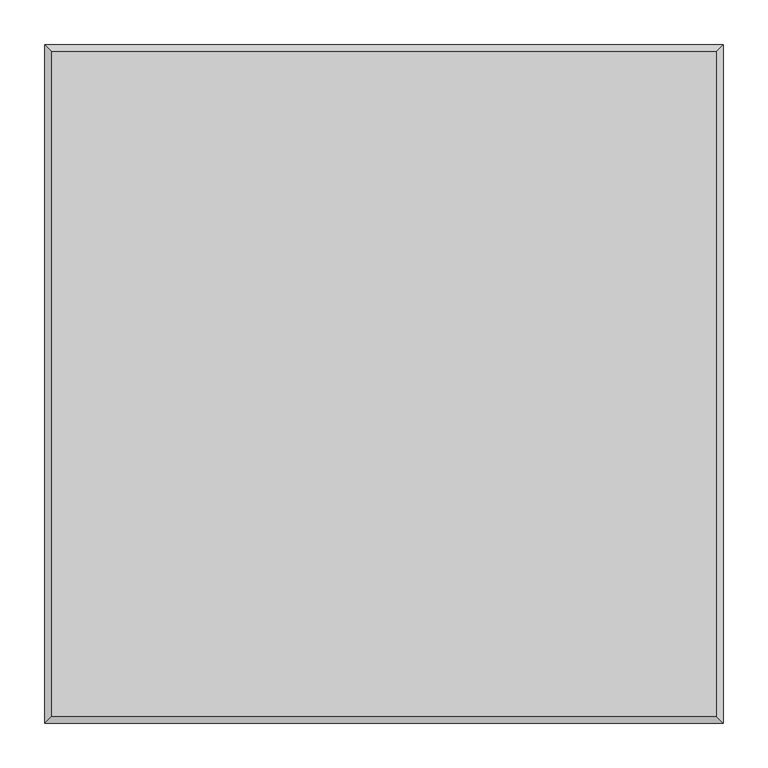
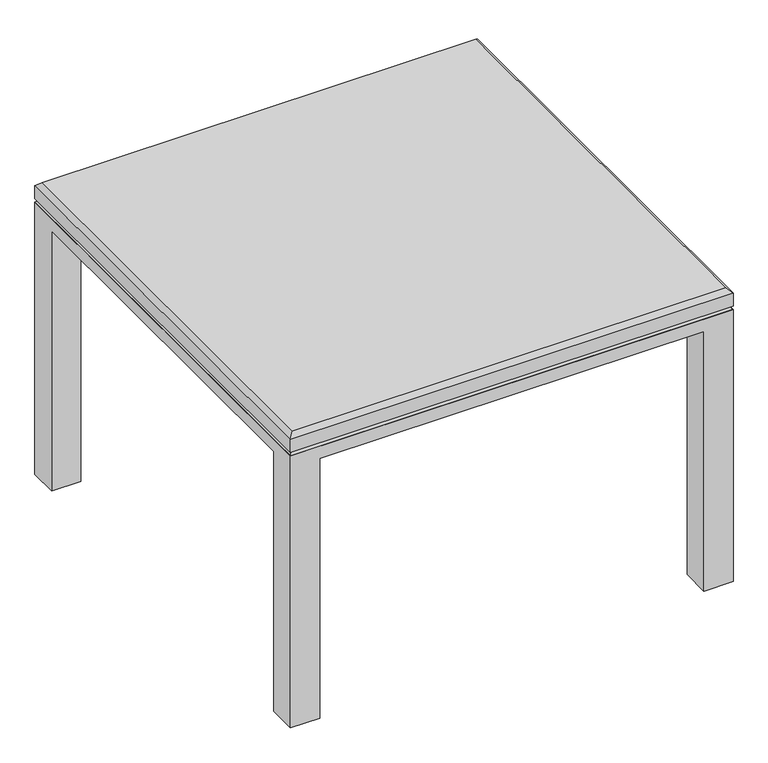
"""IFC4 building model written with IfcOpenShell, lengths in millimetres: furniture geometry, Steelcase Coalesse - Swathmore Plus - Beveled : 30D x 30W x 21H - Wood Top."""

import ifcopenshell
import ifcopenshell.guid

model = None  # the IFC model being written
_history = None  # IfcOwnerHistory: only IFC2X3 demands one
_inside = {}  # id of a spatial element -> (the spatial element, [elements in it])
_under = {}  # id of a project, library or spatial element -> (it, [spatial elements below it])
_declared = {}  # id of a project -> (the project, [libraries it declares])
_typed = {}  # id of a type object -> (the type object, [elements of that type])
_made_of = {}  # id of a material, layer set ... -> (it, [elements and type objects made of it])


def new_model(schema):
    """Start an empty IFC model of exactly this schema.

    Asked for "IFC4X3", IfcOpenShell would pick the latest addendum, in which some entities
    have other attributes; the version numbers below select the first issue.
    IFC2X3 requires an IfcOwnerHistory on every rooted entity: one is made here for all.
    """
    global model, _history
    if schema == "IFC4X3":
        model = ifcopenshell.file(schema_version=(4, 3, 0, 0))
    else:
        model = ifcopenshell.file(schema=schema)
    _inside.clear()
    _under.clear()
    _declared.clear()
    _typed.clear()
    _made_of.clear()
    _history = None
    if model.schema == "IFC2X3":
        org = make("IfcOrganization", Name="unknown")
        user = make(
            "IfcPersonAndOrganization",
            ThePerson=make("IfcPerson", FamilyName="unknown"),
            TheOrganization=org,
        )
        app = make(
            "IfcApplication",
            ApplicationDeveloper=org,
            Version="unknown",
            ApplicationFullName="unknown",
            ApplicationIdentifier="unknown",
        )
        _history = make(
            "IfcOwnerHistory",
            OwningUser=user,
            OwningApplication=app,
            ChangeAction="ADDED",
            CreationDate=0,
        )
    return model


def make(cls, **values):
    """One entity of the class cls with the attributes given. An attribute that is None is left unset."""
    return model.create_entity(
        cls, **{name: value for name, value in values.items() if value is not None}
    )


def rooted(cls, **values):
    """An entity with a GlobalId (a new one), such as an element, a storey or a relation."""
    return make(cls, GlobalId=ifcopenshell.guid.new(), OwnerHistory=_history, **values)


def si_unit(unit_type, name, prefix=None):
    """IfcSIUnit, for example si_unit("LENGTHUNIT", "METRE", prefix="MILLI")."""
    return make("IfcSIUnit", UnitType=unit_type, Prefix=prefix, Name=name)


def assignment(units):
    """IfcUnitAssignment: the units of a project."""
    return None if units is None else make("IfcUnitAssignment", Units=units)


def point(xyz):
    """IfcCartesianPoint."""
    return None if xyz is None else make("IfcCartesianPoint", Coordinates=xyz)


def direction(xyz):
    """IfcDirection."""
    return None if xyz is None else make("IfcDirection", DirectionRatios=xyz)


def frame(location, z_axis=None, x_axis=None):
    """IfcAxis2Placement3D, a coordinate frame: its origin and axes. An axis left out is left unset."""
    return make(
        "IfcAxis2Placement3D",
        Location=point(location),
        Axis=direction(z_axis),
        RefDirection=direction(x_axis),
    )


def origin():
    """The frame at (0, 0, 0) with its axes left unset."""
    return frame((0.0, 0.0, 0.0))


def place(relative_to, where):
    """IfcLocalPlacement: puts the frame where relative to a parent placement (None: the world)."""
    return make(
        "IfcLocalPlacement", PlacementRelTo=relative_to, RelativePlacement=where
    )


def context(
    kind, dimensions, precision=None, world=None, true_north=None, identifier=None
):
    """IfcGeometricRepresentationContext, for example the 3D "Model" context."""
    return make(
        "IfcGeometricRepresentationContext",
        ContextIdentifier=identifier,
        ContextType=kind,
        CoordinateSpaceDimension=dimensions,
        Precision=precision,
        WorldCoordinateSystem=world,
        TrueNorth=true_north,
    )


def project(units=None, contexts=None):
    """IfcProject with its units and contexts."""
    return rooted(
        "IfcProject",
        Name="project",
        RepresentationContexts=contexts,
        UnitsInContext=assignment(units),
    )


def spatial(cls, under=None, at=None, **own):
    """A site, building, storey or space (cls), placed at a placement, below another one or the project."""
    s = rooted(cls, ObjectPlacement=at, **own)
    if under is not None:
        _under.setdefault(under.id(), (under, []))[1].append(s)
    return s


def faces_of(points, faces, orient=None, outer=None):
    """IfcFace entities. A face is a list of loops; a loop is a list of indices into points, from 0.

    orient and outer hold one flag for each loop. By default every Orientation is true, the
    first loop of a face is its IfcFaceOuterBound and the others are IfcFaceBound.
    """
    made = []
    for i, loops in enumerate(faces):
        bounds = []
        for j, loop in enumerate(loops):
            is_outer = j == 0 if outer is None else outer[i][j]
            bounds.append(
                make(
                    "IfcFaceOuterBound" if is_outer else "IfcFaceBound",
                    Bound=make("IfcPolyLoop", Polygon=[points[k] for k in loop]),
                    Orientation=True if orient is None else orient[i][j],
                )
            )
        made.append(make("IfcFace", Bounds=bounds))
    return made


def faceted_brep(points, faces, orient=None, outer=None, voids=None):
    """IfcFacetedBrep: a solid bounded by flat faces; with voids (closed shells), ...WithVoids."""
    shared = [point(p) for p in points]
    hull = make("IfcClosedShell", CfsFaces=faces_of(shared, faces, orient, outer))
    if voids is None:
        return make("IfcFacetedBrep", Outer=hull)
    return make(
        "IfcFacetedBrepWithVoids",
        Outer=hull,
        Voids=[
            make(cls, CfsFaces=faces_of(shared, fs, o, b)) for cls, fs, o, b in voids
        ],
    )


def shape(context_of_items, identifier, shape_type, items):
    """IfcShapeRepresentation: the items that make up one representation, for example the "Body"."""
    return make(
        "IfcShapeRepresentation",
        ContextOfItems=context_of_items,
        RepresentationIdentifier=identifier,
        RepresentationType=shape_type,
        Items=items,
    )


def source(mapping_origin, context_of_items, identifier, shape_type, items):
    """IfcRepresentationMap: a shape defined once, which mapped items show again and again."""
    return make(
        "IfcRepresentationMap",
        MappingOrigin=mapping_origin,
        MappedRepresentation=shape(context_of_items, identifier, shape_type, items),
    )


def transform(
    local_origin,
    x_axis=None,
    y_axis=None,
    z_axis=None,
    scale=None,
    scale2=None,
    scale3=None,
    uniform=True,
):
    """IfcCartesianTransformationOperator3D, or its non-uniform kind. x_axis, y_axis, z_axis: its Axis1, 2, 3."""
    if uniform:
        return make(
            "IfcCartesianTransformationOperator3D",
            Axis1=direction(x_axis),
            Axis2=direction(y_axis),
            LocalOrigin=point(local_origin),
            Scale=scale,
            Axis3=direction(z_axis),
        )
    return make(
        "IfcCartesianTransformationOperator3DnonUniform",
        Axis1=direction(x_axis),
        Axis2=direction(y_axis),
        LocalOrigin=point(local_origin),
        Scale=scale,
        Axis3=direction(z_axis),
        Scale2=scale2,
        Scale3=scale3,
    )


def mapped(mapping_source, mapping_target):
    """IfcMappedItem: shows the shape of a source again, moved by a transform."""
    return make(
        "IfcMappedItem", MappingSource=mapping_source, MappingTarget=mapping_target
    )


def made_of(thing, what):
    """Note that an element or type object is made of a material, layer set ...; save() writes the relation."""
    if what is not None:
        _made_of.setdefault(what.id(), (what, []))[1].append(thing)
    return thing


def element(
    cls,
    number,
    at=None,
    inside=None,
    cuts=None,
    type_object=None,
    material=None,
    context=None,
    identifier="Body",
    shape_type=None,
    held_by="IfcProductDefinitionShape",
    body=None,
    shapes=None,
    **own,
):
    """One element of the class cls, such as IfcWall. Its Tag is "e" and its number.

    at: its placement. inside: the storey or other place that contains it. cuts: it is an
    opening in that element (IfcRelVoidsElement). A single representation is given by context,
    identifier, shape_type and body (its items); several are given by shapes. held_by: the class
    of the entity that holds the representations. save() writes the other relations.
    """
    e = rooted(cls, Tag="e%d" % number, ObjectPlacement=at, **own)
    if body is not None:
        shapes = [shape(context, identifier, shape_type, body)]
    if shapes is not None:
        e.Representation = make(held_by, Representations=shapes)
    if inside is not None:
        _inside.setdefault(inside.id(), (inside, []))[1].append(e)
    if cuts is not None:
        rooted(
            "IfcRelVoidsElement", RelatingBuildingElement=cuts, RelatedOpeningElement=e
        )
    if type_object is not None:
        _typed.setdefault(type_object.id(), (type_object, []))[1].append(e)
    return made_of(e, material)


def aggregate(whole, parts):
    """IfcRelAggregates: a whole, such as a stair, and the parts it consists of."""
    return rooted("IfcRelAggregates", RelatingObject=whole, RelatedObjects=parts)


def save(model, path):
    """Write the relations noted so far, then the file.

    IfcRelAggregates (storeys below a building ...), IfcRelContainedInSpatialStructure (elements
    in a storey), IfcRelDefinesByType, IfcRelAssociatesMaterial and IfcRelDeclares: one each for
    every whole, place, type object, material and project.
    """
    for whole, parts in _under.values():
        aggregate(whole, parts)
    for where, things in _inside.values():
        rooted(
            "IfcRelContainedInSpatialStructure",
            RelatedElements=things,
            RelatingStructure=where,
        )
    for kind, things in _typed.values():
        rooted("IfcRelDefinesByType", RelatedObjects=things, RelatingType=kind)
    for what, things in _made_of.values():
        rooted("IfcRelAssociatesMaterial", RelatedObjects=things, RelatingMaterial=what)
    for by, libraries in _declared.values():
        rooted("IfcRelDeclares", RelatingContext=by, RelatedDefinitions=libraries)
    model.write(path)


def furniture_00212fce(model_context):
    return source(origin(), model_context, "Body", "Brep", [
        faceted_brep([(762.0, 0.0, 495.3), (0.0, 0.0, 495.3), (0.0, -762.0, 495.3), (762.0, -762.0, 495.3), (762.0, -50.1297163, 473.0750121), (762.0, -712.1013016, 473.0750121), (711.8734085, -712.1013016, 473.0750121), (711.8734085, -711.8702837, 473.0750121), (755.6498062, -711.8702837, 473.0750121), (755.6498062, -50.1297163, 473.0750121), (711.8734085, -762.0, 473.0750121), (50.1812393, -762.0, 473.0750121), (50.1812393, -712.1013016, 473.0750121), (0.0, -712.1013016, 473.0750121), (0.0, -50.1297163, 473.0750121), (6.3501938, -50.1297163, 473.0750121), (6.3501938, -711.8702837, 473.0750121), (50.8001938, -711.8702837, 473.0750121), (50.8001938, -755.6496318, 473.0750121), (711.8734085, -755.6496318, 473.0750121), (50.1812393, 0.0, 473.0750121), (711.8734085, 0.0, 473.0750121), (711.8734085, -6.3503682, 473.0750121), (50.8001938, -6.3503682, 473.0750121), (50.8001938, -50.1297163, 473.0750121), (50.1812393, -50.1297163, 473.0750121), (762.0, 0.0, 0.0), (711.8734085, 0.0, 0.0), (50.1812393, 0.0, 0.0), (0.0, 0.0, 0.0), (0.0, -50.1297163, 0.0), (0.0, -712.1013016, 0.0), (0.0, -762.0, 0.0), (50.1812393, -762.0, 0.0), (711.8734085, -762.0, 0.0), (762.0, -762.0, 0.0), (762.0, -712.1013016, 0.0), (762.0, -50.1297163, 0.0), (50.1812393, -712.1013016, 0.0), (711.8734085, -712.1013016, 0.0), (711.8734085, -50.1297163, 0.0), (50.1812393, -50.1297163, 0.0), (50.1812393, -712.1013016, 450.8499879), (711.8734085, -50.1297163, 450.8499879), (711.8734085, -28.575, 450.8499879), (733.425, -50.1297163, 450.8499879), (711.8734085, -712.1013016, 450.8499879), (711.8734085, -733.425, 450.8499879), (50.7998062, -50.8000242, 450.8499879), (50.7998062, -28.575, 450.8499879), (733.425, -712.1013016, 450.8499879), (50.1812393, -733.425, 450.8499879), (50.1812393, -712.1013016, 450.8499879), (28.5708422, -712.1013016, 450.8499879), (28.5708422, -50.8000242, 450.8499879)], [[[0, 1, 2, 3]], [[4, 5, 6, 7, 8, 9]], [[10, 11, 12, 13, 14, 15, 16, 17, 18, 19]], [[20, 21, 22, 23, 24, 25]], [[1, 0, 26, 27, 21, 20, 28, 29]], [[2, 1, 29, 30, 14, 13, 31, 32]], [[3, 2, 32, 33, 11, 10, 34, 35]], [[0, 3, 35, 36, 5, 4, 37, 26]], [[33, 32, 31, 38]], [[36, 35, 34, 39]], [[26, 37, 40, 27]], [[28, 41, 30, 29]], [[30, 41, 25, 15, 14]], [[41, 28, 20, 25]], [[33, 38, 42, 12, 11]], [[38, 31, 13, 12, 42]], [[27, 40, 43, 44, 22, 21]], [[40, 37, 4, 9, 45, 43]], [[36, 39, 46, 6, 5]], [[39, 34, 10, 19, 47, 46]], [[48, 49, 44, 43, 45, 50, 46, 47, 51, 52, 53, 54]], [[48, 54, 15, 25, 24]], [[54, 53, 16, 15]], [[53, 52, 17, 16]], [[52, 51, 18, 17]], [[51, 47, 19, 18]], [[46, 7, 6]], [[46, 50, 8, 7]], [[50, 45, 9, 8]], [[44, 49, 23, 22]], [[49, 48, 24, 23]]]),
        faceted_brep([(762.0, -762.0, 525.4625121), (762.0, -762.0, 501.6500121), (762.0, 0.0, 501.6500121), (762.0, 0.0, 525.4625121), (0.0, 0.0, 525.4625121), (0.0, 0.0, 501.6500121), (0.0, -762.0, 501.6500121), (0.0, -762.0, 525.4625121), (754.0626938, -7.9375242, 533.4), (7.9373062, -7.9375242, 533.4), (7.9373062, -754.0625484, 533.4), (754.0626938, -754.0625484, 533.4)], [[[0, 1, 2, 3]], [[4, 5, 6, 7]], [[1, 0, 7, 6]], [[2, 1, 6, 5]], [[3, 2, 5, 4]], [[8, 9, 10, 11]], [[8, 11, 0, 3]], [[11, 10, 7, 0]], [[10, 9, 4, 7]], [[9, 8, 3, 4]]]),
        faceted_brep([(762.0, 0.0, 495.3), (762.0, -762.0, 495.3), (0.0, -762.0, 495.3), (0.0, 0.0, 495.3), (755.6498062, -6.3499758, 501.6500121), (6.3501938, -6.3499758, 501.6500121), (6.3501938, -755.6496318, 501.6500121), (755.6498062, -755.6496318, 501.6500121)], [[[0, 1, 2, 3]], [[4, 5, 6, 7]], [[4, 7, 1, 0]], [[7, 6, 2, 1]], [[6, 5, 3, 2]], [[5, 4, 0, 3]]]),
    ])


if __name__ == "__main__":
    model = new_model("IFC4")
    model_context = context("Model", 3, world=origin())
    ifc_project = project(units=[si_unit("LENGTHUNIT", "METRE", prefix="MILLI")], contexts=[model_context])
    site = spatial("IfcSite", under=ifc_project)
    building = spatial("IfcBuilding", under=site)
    placement = place(None, origin())
    furniture_shape = furniture_00212fce(model_context)
    element("IfcFurniture", 1, ObjectType="Steelcase Coalesse - Swathmore Plus - Beveled : 30D x 30W x 21H - Wood Top", at=placement, inside=building, context=model_context, shape_type="MappedRepresentation", body=[
        mapped(furniture_shape, transform((0.0, 0.0, 0.0), x_axis=(1.0, 0.0, 0.0), y_axis=(0.0, 1.0, 0.0), z_axis=(0.0, 0.0, 1.0))),
    ])
    save(model, "model.ifc")
